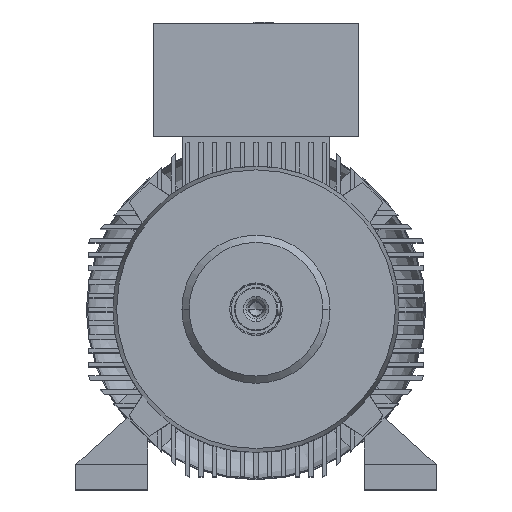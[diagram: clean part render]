
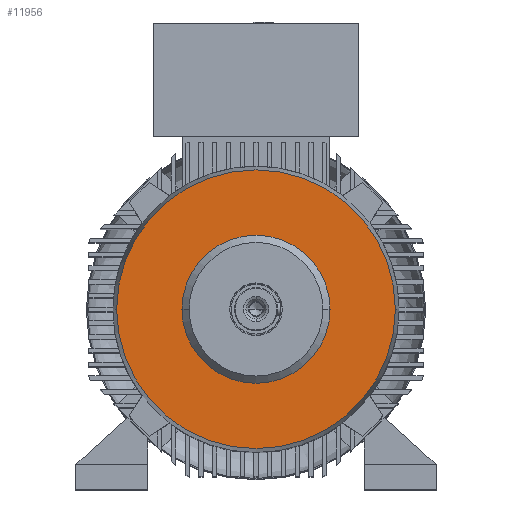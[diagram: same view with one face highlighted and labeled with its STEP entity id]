
A CAD part, top view. The second image highlights one B-rep face of the part: STEP entity #11956.
In plain terms, the highlighted planar face has unit normal (0, 0, 1).
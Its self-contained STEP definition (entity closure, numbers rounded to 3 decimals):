
#184 = AXIS2_PLACEMENT_3D ( 'NONE', #10978, #5176, #25125 ) ;
#903 = PLANE ( 'NONE',  #184 ) ;
#1226 = DIRECTION ( 'NONE',  ( 0., 0., -1. ) ) ;
#1714 = CARTESIAN_POINT ( 'NONE',  ( -193.484, 0., 330.5 ) ) ;
#2089 = AXIS2_PLACEMENT_3D ( 'NONE', #25383, #3419, #17832 ) ;
#2146 = AXIS2_PLACEMENT_3D ( 'NONE', #22988, #1226, #11022 ) ;
#3049 = ORIENTED_EDGE ( 'NONE', *, *, #24972, .T. ) ;
#3419 = DIRECTION ( 'NONE',  ( 0., 0., 1. ) ) ;
#5176 = DIRECTION ( 'NONE',  ( 0., 0., -1. ) ) ;
#5244 = DIRECTION ( 'NONE',  ( 1., 0., 0. ) ) ;
#5903 = VERTEX_POINT ( 'NONE', #1714 ) ;
#6185 = CARTESIAN_POINT ( 'NONE',  ( -102.8, 0., 330.5 ) ) ;
#6831 = ORIENTED_EDGE ( 'NONE', *, *, #23339, .T. ) ;
#7085 = CARTESIAN_POINT ( 'NONE',  ( 102.8, 0., 330.5 ) ) ;
#7166 = AXIS2_PLACEMENT_3D ( 'NONE', #22845, #12887, #14890 ) ;
#7432 = DIRECTION ( 'NONE',  ( 0., 0., -1. ) ) ;
#9286 = CIRCLE ( 'NONE', #2089, 193.484 ) ;
#9515 = VERTEX_POINT ( 'NONE', #23068 ) ;
#9520 = EDGE_CURVE ( 'NONE', #12000, #15346, #12382, .T. ) ;
#9536 = CIRCLE ( 'NONE', #18707, 102.8 ) ;
#10914 = ORIENTED_EDGE ( 'NONE', *, *, #22025, .T. ) ;
#10978 = CARTESIAN_POINT ( 'NONE',  ( 0., 193.484, 330.5 ) ) ;
#11022 = DIRECTION ( 'NONE',  ( 1., 0., 0. ) ) ;
#11032 = CIRCLE ( 'NONE', #7166, 193.484 ) ;
#11956 = ADVANCED_FACE ( 'NONE', ( #25450, #25128 ), #903, .F. ) ;
#12000 = VERTEX_POINT ( 'NONE', #7085 ) ;
#12382 = CIRCLE ( 'NONE', #2146, 102.8 ) ;
#12887 = DIRECTION ( 'NONE',  ( 0., 0., 1. ) ) ;
#14634 = EDGE_LOOP ( 'NONE', ( #24438, #6831 ) ) ;
#14890 = DIRECTION ( 'NONE',  ( 1., 0., 0. ) ) ;
#15346 = VERTEX_POINT ( 'NONE', #6185 ) ;
#17832 = DIRECTION ( 'NONE',  ( 1., 0., 0. ) ) ;
#18707 = AXIS2_PLACEMENT_3D ( 'NONE', #23517, #7432, #5244 ) ;
#19739 = EDGE_LOOP ( 'NONE', ( #3049, #10914 ) ) ;
#22025 = EDGE_CURVE ( 'NONE', #5903, #9515, #9286, .T. ) ;
#22845 = CARTESIAN_POINT ( 'NONE',  ( 0., 0., 330.5 ) ) ;
#22988 = CARTESIAN_POINT ( 'NONE',  ( 0., 0., 330.5 ) ) ;
#23068 = CARTESIAN_POINT ( 'NONE',  ( 193.484, 0., 330.5 ) ) ;
#23339 = EDGE_CURVE ( 'NONE', #15346, #12000, #9536, .T. ) ;
#23517 = CARTESIAN_POINT ( 'NONE',  ( 0., 0., 330.5 ) ) ;
#24438 = ORIENTED_EDGE ( 'NONE', *, *, #9520, .T. ) ;
#24972 = EDGE_CURVE ( 'NONE', #9515, #5903, #11032, .T. ) ;
#25125 = DIRECTION ( 'NONE',  ( 1., 0., 0. ) ) ;
#25128 = FACE_OUTER_BOUND ( 'NONE', #19739, .T. ) ;
#25383 = CARTESIAN_POINT ( 'NONE',  ( 0., 0., 330.5 ) ) ;
#25450 = FACE_BOUND ( 'NONE', #14634, .T. ) ;
